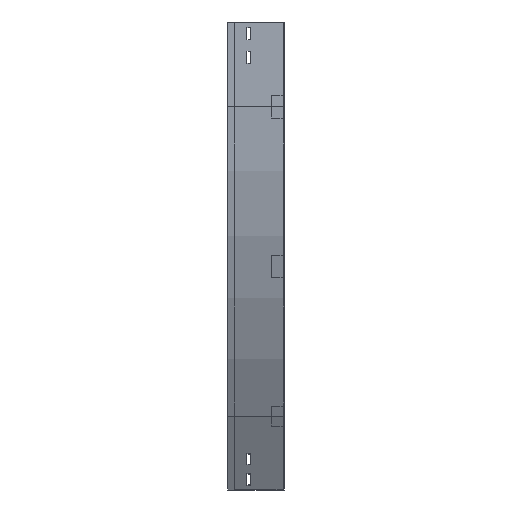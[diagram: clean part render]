
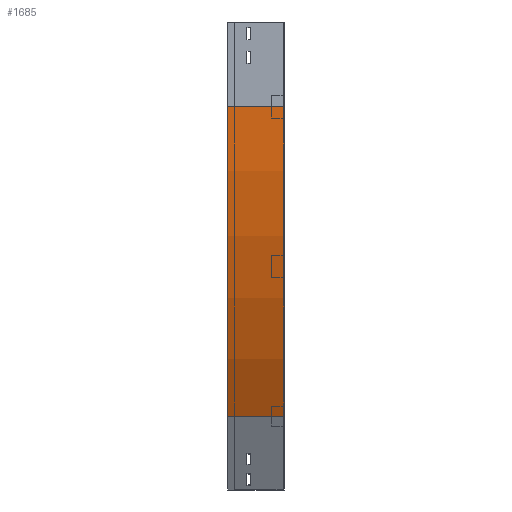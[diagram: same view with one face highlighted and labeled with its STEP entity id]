
A CAD part, left-side view. The second image highlights one B-rep face of the part: STEP entity #1685.
In plain terms, the highlighted cylindrical face has radius 1100 mm (diameter 2200 mm), a partial arc.
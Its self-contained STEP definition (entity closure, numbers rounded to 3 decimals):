
#167 = LINE ( 'NONE', #3458, #1109 ) ;
#350 = CIRCLE ( 'NONE', #2601, 1100. ) ;
#460 = EDGE_CURVE ( 'NONE', #623, #2322, #2787, .T. ) ;
#506 = LINE ( 'NONE', #1336, #3639 ) ;
#567 = CYLINDRICAL_SURFACE ( 'NONE', #2158, 1100. ) ;
#617 = CARTESIAN_POINT ( 'NONE',  ( 147.372, 0., -700. ) ) ;
#623 = VERTEX_POINT ( 'NONE', #3360 ) ;
#824 = CARTESIAN_POINT ( 'NONE',  ( 1100., 0., -150. ) ) ;
#987 = AXIS2_PLACEMENT_3D ( 'NONE', #824, #2986, #1154 ) ;
#1084 = EDGE_CURVE ( 'NONE', #2858, #1702, #350, .T. ) ;
#1109 = VECTOR ( 'NONE', #2045, 1000. ) ;
#1154 = DIRECTION ( 'NONE',  ( -1., 0., 0. ) ) ;
#1220 = ORIENTED_EDGE ( 'NONE', *, *, #1084, .T. ) ;
#1234 = EDGE_CURVE ( 'NONE', #1702, #2322, #167, .T. ) ;
#1336 = CARTESIAN_POINT ( 'NONE',  ( 0., 0., -150. ) ) ;
#1538 = EDGE_CURVE ( 'NONE', #2858, #623, #506, .T. ) ;
#1601 = EDGE_LOOP ( 'NONE', ( #3063, #3057, #1220, #2895 ) ) ;
#1685 = ADVANCED_FACE ( 'NONE', ( #2673 ), #567, .T. ) ;
#1702 = VERTEX_POINT ( 'NONE', #3833 ) ;
#1799 = CARTESIAN_POINT ( 'NONE',  ( 1100., 100., -150. ) ) ;
#1855 = DIRECTION ( 'NONE',  ( -1., 0., 0. ) ) ;
#2045 = DIRECTION ( 'NONE',  ( 0., -1., 0. ) ) ;
#2158 = AXIS2_PLACEMENT_3D ( 'NONE', #3790, #3517, #2932 ) ;
#2289 = DIRECTION ( 'NONE',  ( 0., -1., 0. ) ) ;
#2322 = VERTEX_POINT ( 'NONE', #617 ) ;
#2601 = AXIS2_PLACEMENT_3D ( 'NONE', #1799, #3051, #1855 ) ;
#2673 = FACE_OUTER_BOUND ( 'NONE', #1601, .T. ) ;
#2787 = CIRCLE ( 'NONE', #987, 1100. ) ;
#2858 = VERTEX_POINT ( 'NONE', #3455 ) ;
#2895 = ORIENTED_EDGE ( 'NONE', *, *, #1234, .T. ) ;
#2932 = DIRECTION ( 'NONE',  ( 0., 0., -1. ) ) ;
#2986 = DIRECTION ( 'NONE',  ( 0., -1., 0. ) ) ;
#3051 = DIRECTION ( 'NONE',  ( 0., -1., 0. ) ) ;
#3057 = ORIENTED_EDGE ( 'NONE', *, *, #1538, .F. ) ;
#3063 = ORIENTED_EDGE ( 'NONE', *, *, #460, .F. ) ;
#3360 = CARTESIAN_POINT ( 'NONE',  ( 0., 0., -150. ) ) ;
#3455 = CARTESIAN_POINT ( 'NONE',  ( 0., 100., -150. ) ) ;
#3458 = CARTESIAN_POINT ( 'NONE',  ( 147.372, 0., -700. ) ) ;
#3517 = DIRECTION ( 'NONE',  ( 0., -1., 0. ) ) ;
#3639 = VECTOR ( 'NONE', #2289, 1000. ) ;
#3790 = CARTESIAN_POINT ( 'NONE',  ( 1100., 0., -150. ) ) ;
#3833 = CARTESIAN_POINT ( 'NONE',  ( 147.372, 100., -700. ) ) ;
